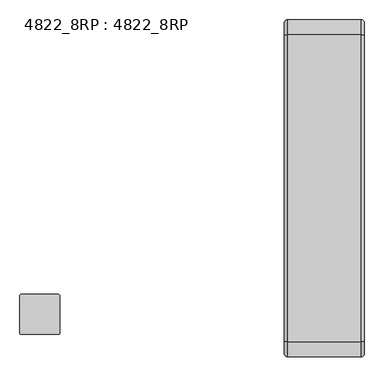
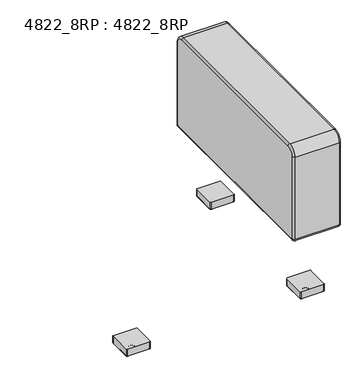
"""IFC4 building model written with IfcOpenShell, lengths in millimetres: furniture geometry, 4822_8RP : 4822_8RP."""

from ifc_helpers import new_model, si_unit, point, frame, frame_2d, origin, place, context, project, spatial, polyline, circle_curve, ellipse_curve, trimmed, segment, composite_curve, outline, extrude, source, transform, mapped, element, save
from ifc_brep_helpers import plane_surface, cylinder_surface, revolved_surface, advanced_brep


def furniture_4822_8rp_4822_8rp_7e01e892(model_context):
    return source(origin(), model_context, "Body", "SolidModel", [
        advanced_brep(
        [(457.2, -8.89, 698.8175), (457.2, -38.1, 728.0275), (457.2, -819.15, 728.0275), (457.2, -848.36, 698.8175), (457.2, -848.36, 330.4403326), (457.2, -847.8021674, 329.8825), (457.2, -9.4347305, 329.8825), (457.2, -8.89, 330.4272305), (254.0, -38.1, 728.0275), (254.0, -8.89, 698.8175), (254.0, -8.89, 330.4272305), (254.0, -9.4347305, 329.8825), (254.0, -847.8021674, 329.8825), (254.0, -848.36, 330.4403326), (254.0, -848.36, 698.8175), (254.0, -819.15, 728.0275), (262.89, -38.1, 736.9175), (262.89, -819.15, 736.9175), (448.31, -819.15, 736.9175), (448.31, -38.1, 736.9175), (262.89, -857.25, 698.8175), (448.31, -857.25, 698.8175), (262.89, -857.25, 330.4403326), (448.31, -857.25, 330.4403326), (262.89, -847.8021674, 320.9925), (448.31, -847.8021674, 320.9925), (262.89, -9.4347305, 320.9925), (448.31, -9.4347305, 320.9925), (400.05, -161.925, 320.9925), (400.05, -187.325, 320.9925), (400.05, -669.925, 320.9925), (400.05, -695.325, 320.9925), (262.89, 0.0, 330.4272305), (448.31, 0.0, 330.4272305), (262.89, 0.0, 698.8175), (448.31, 0.0, 698.8175), (400.05, -161.925, 333.6925), (400.05, -187.325, 333.6925), (400.05, -669.925, 333.6925), (400.05, -695.325, 333.6925)],
        [
            (0, 1, circle_curve(frame((457.2, -38.1, 698.8175), z_axis=(1.0, 0.0, 0.0), x_axis=(0.0, 0.0, 1.0)), 29.21)),
            (1, 2),
            (2, 3, circle_curve(frame((457.2, -819.15, 698.8175), z_axis=(1.0, 0.0, 0.0), x_axis=(0.0, -1.0, 0.0)), 29.21)),
            (3, 4),
            (4, 5, circle_curve(frame((457.2, -847.8021674, 330.4403326), z_axis=(1.0, 0.0, 0.0), x_axis=(0.0, 0.0, -1.0)), 0.5578326)),
            (5, 6),
            (6, 7, circle_curve(frame((457.2, -9.4347305, 330.4272305), z_axis=(1.0, 0.0, 0.0), x_axis=(0.0, 1.0, 0.0)), 0.5447305)),
            (7, 0),
            (8, 9, circle_curve(frame((254.0, -38.1, 698.8175), z_axis=(-1.0, 0.0, 0.0), x_axis=(0.0, 0.0, 1.0)), 29.21)),
            (9, 10),
            (10, 11, circle_curve(frame((254.0, -9.4347305, 330.4272305), z_axis=(-1.0, 0.0, 0.0), x_axis=(0.0, 1.0, 0.0)), 0.5447305)),
            (11, 12),
            (12, 13, circle_curve(frame((254.0, -847.8021674, 330.4403326), z_axis=(-1.0, 0.0, 0.0), x_axis=(0.0, 0.0, -1.0)), 0.5578326)),
            (13, 14),
            (14, 15, circle_curve(frame((254.0, -819.15, 698.8175), z_axis=(-1.0, 0.0, 0.0), x_axis=(0.0, -1.0, 0.0)), 29.21)),
            (15, 8),
            (16, 17),
            (17, 18),
            (18, 19),
            (19, 16),
            (17, 20, circle_curve(frame((262.89, -819.15, 698.8175), z_axis=(1.0, 0.0, 0.0), x_axis=(0.0, -1.0, 0.0)), 38.1)),
            (20, 21),
            (21, 18, circle_curve(frame((448.31, -819.15, 698.8175), z_axis=(-1.0, 0.0, 0.0), x_axis=(0.0, -1.0, 0.0)), 38.1)),
            (20, 22),
            (22, 23),
            (23, 21),
            (22, 24, circle_curve(frame((262.89, -847.8021674, 330.4403326), z_axis=(1.0, 0.0, 0.0), x_axis=(0.0, -1.0, 0.0)), 9.4478326)),
            (24, 25),
            (25, 23, circle_curve(frame((448.31, -847.8021674, 330.4403326), z_axis=(-1.0, 0.0, 0.0), x_axis=(0.0, -1.0, 0.0)), 9.4478326)),
            (24, 26),
            (26, 27),
            (27, 25),
            (28, 29, circle_curve(frame((400.05, -174.625, 320.9925), z_axis=(0.0, 0.0, 1.0), x_axis=(1.0, 0.0, 0.0)), 12.7)),
            (29, 28),
            (30, 31, circle_curve(frame((400.05, -682.625, 320.9925), z_axis=(0.0, 0.0, 1.0), x_axis=(1.0, 0.0, 0.0)), 12.7)),
            (31, 30),
            (26, 32, circle_curve(frame((262.89, -9.4347305, 330.4272305), z_axis=(1.0, 0.0, 0.0), x_axis=(0.0, -1.0, 0.0)), 9.4347305)),
            (32, 33),
            (33, 27, circle_curve(frame((448.31, -9.4347305, 330.4272305), z_axis=(-1.0, 0.0, 0.0), x_axis=(0.0, -1.0, 0.0)), 9.4347305)),
            (32, 34),
            (34, 35),
            (35, 33),
            (34, 16, circle_curve(frame((262.89, -38.1, 698.8175), z_axis=(1.0, 0.0, 0.0), x_axis=(0.0, -1.0, 0.0)), 38.1)),
            (19, 35, circle_curve(frame((448.31, -38.1, 698.8175), z_axis=(-1.0, 0.0, 0.0), x_axis=(0.0, -1.0, 0.0)), 38.1)),
            (34, 9, circle_curve(frame((262.89, -8.89, 698.8175), z_axis=(0.0, 0.0, 1.0), x_axis=(1.0, 0.0, 0.0)), 8.89)),
            (8, 16, circle_curve(frame((262.89, -38.1, 728.0275), z_axis=(0.0, 1.0, 0.0), x_axis=(1.0, 0.0, 0.0)), 8.89)),
            (32, 10, circle_curve(frame((262.89, -8.89, 330.4272305), z_axis=(0.0, 0.0, 1.0), x_axis=(1.0, 0.0, 0.0)), 8.89)),
            (26, 11, circle_curve(frame((262.89, -9.4347305, 329.8825), z_axis=(0.0, 1.0, 0.0), x_axis=(1.0, 0.0, 0.0)), 8.89)),
            (24, 12, circle_curve(frame((262.89, -847.8021674, 329.8825), z_axis=(0.0, 1.0, 0.0), x_axis=(1.0, 0.0, 0.0)), 8.89)),
            (22, 13, circle_curve(frame((262.89, -848.36, 330.4403326), z_axis=(0.0, 0.0, -1.0), x_axis=(1.0, 0.0, 0.0)), 8.89)),
            (20, 14, circle_curve(frame((262.89, -848.36, 698.8175), z_axis=(0.0, 0.0, -1.0), x_axis=(1.0, 0.0, 0.0)), 8.89)),
            (17, 15, circle_curve(frame((262.89, -819.15, 728.0275), z_axis=(0.0, -1.0, 0.0), x_axis=(1.0, 0.0, 0.0)), 8.89)),
            (0, 35, circle_curve(frame((448.31, -8.89, 698.8175), z_axis=(0.0, 0.0, 1.0), x_axis=(-1.0, 0.0, 0.0)), 8.89)),
            (19, 1, circle_curve(frame((448.31, -38.1, 728.0275), z_axis=(0.0, 1.0, 0.0), x_axis=(-1.0, 0.0, 0.0)), 8.89)),
            (7, 33, circle_curve(frame((448.31, -8.89, 330.4272305), z_axis=(0.0, 0.0, 1.0), x_axis=(-1.0, 0.0, 0.0)), 8.89)),
            (6, 27, circle_curve(frame((448.31, -9.4347305, 329.8825), z_axis=(0.0, 1.0, 0.0), x_axis=(-1.0, 0.0, 0.0)), 8.89)),
            (5, 25, circle_curve(frame((448.31, -847.8021674, 329.8825), z_axis=(0.0, 1.0, 0.0), x_axis=(-1.0, 0.0, 0.0)), 8.89)),
            (4, 23, circle_curve(frame((448.31, -848.36, 330.4403326), z_axis=(0.0, 0.0, -1.0), x_axis=(-1.0, 0.0, 0.0)), 8.89)),
            (3, 21, circle_curve(frame((448.31, -848.36, 698.8175), z_axis=(0.0, 0.0, -1.0), x_axis=(-1.0, 0.0, 0.0)), 8.89)),
            (2, 18, circle_curve(frame((448.31, -819.15, 728.0275), z_axis=(0.0, -1.0, 0.0), x_axis=(-1.0, 0.0, 0.0)), 8.89)),
            (36, 37),
            (37, 36, circle_curve(frame((400.05, -174.625, 333.6925), z_axis=(0.0, 0.0, -1.0), x_axis=(1.0, 0.0, 0.0)), 12.7)),
            (38, 39),
            (39, 38, circle_curve(frame((400.05, -682.625, 333.6925), z_axis=(0.0, 0.0, -1.0), x_axis=(1.0, 0.0, 0.0)), 12.7)),
            (37, 29),
            (28, 36),
            (39, 31),
            (30, 38),
        ],
        [
            plane_surface(frame((457.2, -819.15, 736.9175), z_axis=(1.0, 0.0, 0.0), x_axis=(0.0, -1.0, 0.0))),
            plane_surface(frame((254.0, -819.15, 736.9175), z_axis=(-1.0, 0.0, 0.0), x_axis=(0.0, 1.0, 0.0))),
            plane_surface(frame((457.2, -38.1, 736.9175), z_axis=(0.0, 0.0, 1.0), x_axis=(-1.0, 0.0, 0.0))),
            cylinder_surface(frame((254.0, -819.15, 698.8175), z_axis=(1.0, 0.0, 0.0), x_axis=(0.0, -1.0, 0.0)), 38.1),
            plane_surface(frame((457.2, -857.25, 698.8175), z_axis=(0.0, -1.0, 0.0), x_axis=(-1.0, 0.0, 0.0))),
            cylinder_surface(frame((254.0, -847.8021674, 330.4403326), z_axis=(1.0, 0.0, 0.0), x_axis=(0.0, -1.0, 0.0)), 9.4478326),
            plane_surface(frame((457.2, -847.8021674, 320.9925), z_axis=(0.0, 0.0, -1.0), x_axis=(-1.0, 0.0, 0.0))),
            cylinder_surface(frame((254.0, -9.4347305, 330.4272305), z_axis=(1.0, 0.0, 0.0), x_axis=(0.0, -1.0, 0.0)), 9.4347305),
            plane_surface(frame((457.2, 0.0, 330.4272305), z_axis=(0.0, 1.0, 0.0), x_axis=(-1.0, 0.0, 0.0))),
            cylinder_surface(frame((254.0, -38.1, 698.8175), z_axis=(1.0, 0.0, 0.0), x_axis=(0.0, -1.0, 0.0)), 38.1),
            revolved_surface(trimmed(ellipse_curve(frame((262.89, -38.1, 728.0275), z_axis=(0.0, -1.0, 0.0), x_axis=(1.0, 0.0, 0.0)), 8.89, 8.89), [point((262.89, -38.1, 736.9175))], [point((254.0, -38.1, 728.0275))], True, "CARTESIAN"), (254.0, -38.1, 698.8175), (-1.0, 0.0, 0.0)),
            cylinder_surface(frame((262.89, -8.89, 698.8175), z_axis=(0.0, 0.0, -1.0), x_axis=(1.0, 0.0, 0.0)), 8.89),
            revolved_surface(trimmed(ellipse_curve(frame((262.89, -8.89, 330.4272305), z_axis=(0.0, 0.0, 1.0), x_axis=(1.0, 0.0, 0.0)), 8.89, 8.89), [point((262.89, 0.0, 330.4272305))], [point((254.0, -8.89, 330.4272305))], True, "CARTESIAN"), (254.0, -9.4347305, 330.4272305), (-1.0, 0.0, 0.0)),
            cylinder_surface(frame((262.89, -9.4347305, 329.8825), z_axis=(0.0, -1.0, 0.0), x_axis=(1.0, 0.0, 0.0)), 8.89),
            revolved_surface(trimmed(ellipse_curve(frame((262.89, -847.8021674, 329.8825), z_axis=(0.0, 1.0, 0.0), x_axis=(1.0, 0.0, 0.0)), 8.89, 8.89), [point((262.89, -847.8021674, 320.9925))], [point((254.0, -847.8021674, 329.8825))], True, "CARTESIAN"), (254.0, -847.8021674, 330.4403326), (-1.0, 0.0, 0.0)),
            cylinder_surface(frame((262.89, -848.36, 330.4403326), z_axis=(0.0, 0.0, 1.0), x_axis=(1.0, 0.0, 0.0)), 8.89),
            revolved_surface(trimmed(ellipse_curve(frame((262.89, -848.36, 698.8175), z_axis=(0.0, 0.0, -1.0), x_axis=(1.0, 0.0, 0.0)), 8.89, 8.89), [point((262.89, -857.25, 698.8175))], [point((254.0, -848.36, 698.8175))], True, "CARTESIAN"), (254.0, -819.15, 698.8175), (-1.0, 0.0, 0.0)),
            cylinder_surface(frame((262.89, -819.15, 728.0275), z_axis=(0.0, 1.0, 0.0), x_axis=(1.0, 0.0, 0.0)), 8.89),
            revolved_surface(trimmed(ellipse_curve(frame((448.31, -38.1, 728.0275), z_axis=(0.0, -1.0, 0.0), x_axis=(-1.0, 0.0, 0.0)), 8.89, 8.89), [point((457.2, -38.1, 728.0275))], [point((448.31, -38.1, 736.9175))], True, "CARTESIAN"), (457.2, -38.1, 698.8175), (-1.0, 0.0, 0.0)),
            cylinder_surface(frame((448.31, -8.89, 698.8175), z_axis=(0.0, 0.0, -1.0), x_axis=(-1.0, 0.0, 0.0)), 8.89),
            revolved_surface(trimmed(ellipse_curve(frame((448.31, -8.89, 330.4272305), z_axis=(0.0, 0.0, 1.0), x_axis=(-1.0, 0.0, 0.0)), 8.89, 8.89), [point((457.2, -8.89, 330.4272305))], [point((448.31, 0.0, 330.4272305))], True, "CARTESIAN"), (457.2, -9.4347305, 330.4272305), (-1.0, 0.0, 0.0)),
            cylinder_surface(frame((448.31, -9.4347305, 329.8825), z_axis=(0.0, -1.0, 0.0), x_axis=(-1.0, 0.0, 0.0)), 8.89),
            revolved_surface(trimmed(ellipse_curve(frame((448.31, -847.8021674, 329.8825), z_axis=(0.0, 1.0, 0.0), x_axis=(-1.0, 0.0, 0.0)), 8.89, 8.89), [point((457.2, -847.8021674, 329.8825))], [point((448.31, -847.8021674, 320.9925))], True, "CARTESIAN"), (457.2, -847.8021674, 330.4403326), (-1.0, 0.0, 0.0)),
            cylinder_surface(frame((448.31, -848.36, 330.4403326), z_axis=(0.0, 0.0, 1.0), x_axis=(-1.0, 0.0, 0.0)), 8.89),
            revolved_surface(trimmed(ellipse_curve(frame((448.31, -848.36, 698.8175), z_axis=(0.0, 0.0, -1.0), x_axis=(-1.0, 0.0, 0.0)), 8.89, 8.89), [point((457.2, -848.36, 698.8175))], [point((448.31, -857.25, 698.8175))], True, "CARTESIAN"), (457.2, -819.15, 698.8175), (-1.0, 0.0, 0.0)),
            cylinder_surface(frame((448.31, -819.15, 728.0275), z_axis=(0.0, 1.0, 0.0), x_axis=(-1.0, 0.0, 0.0)), 8.89),
            plane_surface(frame((412.75, -174.625, 333.6925), z_axis=(0.0, 0.0, -1.0), x_axis=(0.0, 1.0, 0.0))),
            revolved_surface(polyline([(412.75, -174.625, 333.6925), (412.75, -174.625, 320.9925)]), (400.05, -174.625, 320.9925), (0.0, 0.0, 1.0)),
            plane_surface(frame((400.05, -187.325, 333.6925), z_axis=(-1.0, 0.0, 0.0), x_axis=(0.0, 0.0, -1.0))),
            revolved_surface(polyline([(412.75, -682.625, 333.6925), (412.75, -682.625, 320.9925)]), (400.05, -682.625, 9.8425), (0.0, 0.0, 1.0)),
            plane_surface(frame((400.05, -695.325, 333.6925), z_axis=(-1.0, 0.0, 0.0), x_axis=(0.0, 0.0, -1.0))),
        ],
        [
            (0, [[1, 2, 3, 4, 5, 6, 7, 8]]),
            (1, [[9, 10, 11, 12, 13, 14, 15, 16]]),
            (2, [[17, 18, 19, 20]]),
            (3, [[21, 22, 23, -18]]),
            (4, [[24, 25, 26, -22]]),
            (5, [[27, 28, 29, -25]]),
            (6, [[30, 31, 32, -28], [33, 34], [35, 36]]),
            (7, [[37, 38, 39, -31]]),
            (8, [[40, 41, 42, -38]]),
            (9, [[43, -20, 44, -41]]),
            (10, [[45, -9, 46, -43]]),
            (11, [[-45, -40, 47, -10]]),
            (12, [[-47, -37, 48, -11]]),
            (13, [[-48, -30, 49, -12]]),
            (14, [[-49, -27, 50, -13]]),
            (15, [[-50, -24, 51, -14]]),
            (16, [[-51, -21, 52, -15]]),
            (17, [[-46, -16, -52, -17]]),
            (18, [[53, -44, 54, -1]]),
            (19, [[-53, -8, 55, -42]]),
            (20, [[-55, -7, 56, -39]]),
            (21, [[-56, -6, 57, -32]]),
            (22, [[-57, -5, 58, -29]]),
            (23, [[-58, -4, 59, -26]]),
            (24, [[-59, -3, 60, -23]]),
            (25, [[-54, -19, -60, -2]]),
            (26, [[61, 62]]),
            (26, [[63, 64]]),
            (27, [[-62, 65, -33, 66]]),
            (28, [[-61, -66, -34, -65]]),
            (29, [[-64, 67, -35, 68]]),
            (30, [[-63, -68, -36, -67]]),
        ],
    ),
        advanced_brep(
        [(-320.675, -698.5, 41.5925), (-415.925, -698.5, 41.5925), (-419.1, -701.675, 41.5925), (-419.1, -796.925, 41.5925), (-415.925, -800.1, 41.5925), (-320.675, -800.1, 41.5925), (-317.5, -796.925, 41.5925), (-317.5, -701.675, 41.5925), (-417.83, -701.675, 11.1125), (-415.925, -699.77, 11.1125), (-320.675, -699.77, 11.1125), (-318.77, -701.675, 11.1125), (-318.77, -796.925, 11.1125), (-320.675, -798.83, 11.1125), (-415.925, -798.83, 11.1125), (-417.83, -796.925, 11.1125), (-320.675, -698.5, 11.1125), (-415.925, -698.5, 11.1125), (-419.1, -701.675, 11.1125), (-419.1, -796.925, 11.1125), (-415.925, -800.1, 11.1125), (-320.675, -800.1, 11.1125), (-317.5, -796.925, 11.1125), (-317.5, -701.675, 11.1125), (-415.925, -699.77, 9.8425), (-417.83, -701.675, 9.8425), (-320.675, -699.77, 9.8425), (-318.77, -701.675, 9.8425), (-318.77, -796.925, 9.8425), (-320.675, -798.83, 9.8425), (-415.925, -798.83, 9.8425), (-417.83, -796.925, 9.8425)],
        [
            (0, 1),
            (1, 2, circle_curve(frame((-415.925, -701.675, 41.5925), z_axis=(0.0, 0.0, 1.0), x_axis=(1.0, 0.0, 0.0)), 3.175)),
            (2, 3),
            (3, 4, circle_curve(frame((-415.925, -796.925, 41.5925), z_axis=(0.0, 0.0, 1.0), x_axis=(1.0, 0.0, 0.0)), 3.175)),
            (4, 5),
            (5, 6, circle_curve(frame((-320.675, -796.925, 41.5925), z_axis=(0.0, 0.0, 1.0), x_axis=(1.0, 0.0, 0.0)), 3.175)),
            (6, 7),
            (7, 0, circle_curve(frame((-320.675, -701.675, 41.5925), z_axis=(0.0, 0.0, 1.0), x_axis=(1.0, 0.0, 0.0)), 3.175)),
            (8, 9, circle_curve(frame((-415.925, -701.675, 11.1125), z_axis=(0.0, 0.0, -1.0), x_axis=(-1.0, 0.0, 0.0)), 1.905)),
            (9, 10),
            (10, 11, circle_curve(frame((-320.675, -701.675, 11.1125), z_axis=(0.0, 0.0, -1.0), x_axis=(0.0, 1.0, 0.0)), 1.905)),
            (11, 12),
            (12, 13, circle_curve(frame((-320.675, -796.925, 11.1125), z_axis=(0.0, 0.0, -1.0), x_axis=(1.0, 0.0, 0.0)), 1.905)),
            (13, 14),
            (14, 15, circle_curve(frame((-415.925, -796.925, 11.1125), z_axis=(0.0, 0.0, -1.0), x_axis=(0.0, -1.0, 0.0)), 1.905)),
            (15, 8),
            (0, 16),
            (16, 17),
            (17, 1),
            (17, 18, circle_curve(frame((-415.925, -701.675, 11.1125), z_axis=(0.0, 0.0, 1.0), x_axis=(1.0, 0.0, 0.0)), 3.175)),
            (18, 2),
            (18, 19),
            (19, 3),
            (19, 20, circle_curve(frame((-415.925, -796.925, 11.1125), z_axis=(0.0, 0.0, 1.0), x_axis=(1.0, 0.0, 0.0)), 3.175)),
            (20, 4),
            (20, 21),
            (21, 5),
            (21, 22, circle_curve(frame((-320.675, -796.925, 11.1125), z_axis=(0.0, 0.0, 1.0), x_axis=(1.0, 0.0, 0.0)), 3.175)),
            (22, 6),
            (22, 23),
            (23, 7),
            (23, 16, circle_curve(frame((-320.675, -701.675, 11.1125), z_axis=(0.0, 0.0, 1.0), x_axis=(1.0, 0.0, 0.0)), 3.175)),
            (24, 25, circle_curve(frame((-415.925, -701.675, 9.8425), z_axis=(0.0, 0.0, 1.0), x_axis=(-1.0, 0.0, 0.0)), 1.905)),
            (25, 18, circle_curve(frame((-417.83, -701.675, 11.1125), z_axis=(0.0, 1.0, 0.0), x_axis=(1.0, 0.0, 0.0)), 1.27)),
            (17, 24, circle_curve(frame((-415.925, -699.77, 11.1125), z_axis=(-1.0, 0.0, 0.0), x_axis=(0.0, -1.0, 0.0)), 1.27)),
            (16, 26, circle_curve(frame((-320.675, -699.77, 11.1125), z_axis=(-1.0, 0.0, 0.0), x_axis=(0.0, -1.0, 0.0)), 1.27)),
            (26, 24),
            (23, 27, circle_curve(frame((-318.77, -701.675, 11.1125), z_axis=(0.0, 1.0, 0.0), x_axis=(-1.0, 0.0, 0.0)), 1.27)),
            (27, 26, circle_curve(frame((-320.675, -701.675, 9.8425), z_axis=(0.0, 0.0, 1.0), x_axis=(0.0, 1.0, 0.0)), 1.905)),
            (22, 28, circle_curve(frame((-318.77, -796.925, 11.1125), z_axis=(0.0, 1.0, 0.0), x_axis=(-1.0, 0.0, 0.0)), 1.27)),
            (28, 27),
            (21, 29, circle_curve(frame((-320.675, -798.83, 11.1125), z_axis=(1.0, 0.0, 0.0), x_axis=(0.0, 1.0, 0.0)), 1.27)),
            (29, 28, circle_curve(frame((-320.675, -796.925, 9.8425), z_axis=(0.0, 0.0, 1.0), x_axis=(1.0, 0.0, 0.0)), 1.905)),
            (20, 30, circle_curve(frame((-415.925, -798.83, 11.1125), z_axis=(1.0, 0.0, 0.0), x_axis=(0.0, 1.0, 0.0)), 1.27)),
            (30, 29),
            (19, 31, circle_curve(frame((-417.83, -796.925, 11.1125), z_axis=(0.0, -1.0, 0.0), x_axis=(1.0, 0.0, 0.0)), 1.27)),
            (31, 30, circle_curve(frame((-415.925, -796.925, 9.8425), z_axis=(0.0, 0.0, 1.0), x_axis=(0.0, -1.0, 0.0)), 1.905)),
            (25, 31),
            (24, 9),
            (8, 25),
            (26, 10),
            (27, 11),
            (28, 12),
            (29, 13),
            (30, 14),
            (31, 15),
        ],
        [
            plane_surface(frame((-415.925, -698.5, 41.5925), z_axis=(0.0, 0.0, 1.0), x_axis=(-1.0, 0.0, 0.0))),
            plane_surface(frame((-415.925, -698.5, 11.1125), z_axis=(0.0, 0.0, -1.0), x_axis=(1.0, 0.0, 0.0))),
            plane_surface(frame((-320.675, -698.5, 41.5925), z_axis=(0.0, 1.0, 0.0), x_axis=(0.0, 0.0, -1.0))),
            cylinder_surface(frame((-415.925, -701.675, 11.1125), z_axis=(0.0, 0.0, 1.0), x_axis=(1.0, 0.0, 0.0)), 3.175),
            plane_surface(frame((-419.1, -701.675, 41.5925), z_axis=(-1.0, 0.0, 0.0), x_axis=(0.0, 0.0, -1.0))),
            cylinder_surface(frame((-415.925, -796.925, 11.1125), z_axis=(0.0, 0.0, 1.0), x_axis=(1.0, 0.0, 0.0)), 3.175),
            plane_surface(frame((-415.925, -800.1, 41.5925), z_axis=(0.0, -1.0, 0.0), x_axis=(0.0, 0.0, -1.0))),
            cylinder_surface(frame((-320.675, -796.925, 11.1125), z_axis=(0.0, 0.0, 1.0), x_axis=(1.0, 0.0, 0.0)), 3.175),
            plane_surface(frame((-317.5, -796.925, 41.5925), z_axis=(1.0, 0.0, 0.0), x_axis=(0.0, 0.0, -1.0))),
            cylinder_surface(frame((-320.675, -701.675, 11.1125), z_axis=(0.0, 0.0, 1.0), x_axis=(1.0, 0.0, 0.0)), 3.175),
            revolved_surface(trimmed(ellipse_curve(frame((-417.83, -701.675, 11.1125), z_axis=(0.0, -1.0, 0.0), x_axis=(1.0, 0.0, 0.0)), 1.27, 1.27), [point((-419.1, -701.675, 11.1125))], [point((-417.83, -701.675, 9.8425))], True, "CARTESIAN"), (-415.925, -701.675, 11.1125), (0.0, 0.0, -1.0)),
            cylinder_surface(frame((-415.925, -699.77, 11.1125), z_axis=(-1.0, 0.0, 0.0), x_axis=(0.0, -1.0, 0.0)), 1.27),
            revolved_surface(trimmed(ellipse_curve(frame((-320.675, -699.77, 11.1125), z_axis=(-1.0, 0.0, 0.0), x_axis=(0.0, -1.0, 0.0)), 1.27, 1.27), [point((-320.675, -698.5, 11.1125))], [point((-320.675, -699.77, 9.8425))], True, "CARTESIAN"), (-320.675, -701.675, 11.1125), (0.0, 0.0, -1.0)),
            cylinder_surface(frame((-318.77, -701.675, 11.1125), z_axis=(0.0, 1.0, 0.0), x_axis=(-1.0, 0.0, 0.0)), 1.27),
            revolved_surface(trimmed(ellipse_curve(frame((-318.77, -796.925, 11.1125), z_axis=(0.0, 1.0, 0.0), x_axis=(-1.0, 0.0, 0.0)), 1.27, 1.27), [point((-317.5, -796.925, 11.1125))], [point((-318.77, -796.925, 9.8425))], True, "CARTESIAN"), (-320.675, -796.925, 11.1125), (0.0, 0.0, -1.0)),
            cylinder_surface(frame((-320.675, -798.83, 11.1125), z_axis=(1.0, 0.0, 0.0), x_axis=(0.0, 1.0, 0.0)), 1.27),
            revolved_surface(trimmed(ellipse_curve(frame((-415.925, -798.83, 11.1125), z_axis=(1.0, 0.0, 0.0), x_axis=(0.0, 1.0, 0.0)), 1.27, 1.27), [point((-415.925, -800.1, 11.1125))], [point((-415.925, -798.83, 9.8425))], True, "CARTESIAN"), (-415.925, -796.925, 11.1125), (0.0, 0.0, -1.0)),
            cylinder_surface(frame((-417.83, -796.925, 11.1125), z_axis=(0.0, -1.0, 0.0), x_axis=(1.0, 0.0, 0.0)), 1.27),
            revolved_surface(polyline([(-417.83, -701.675, 9.8425), (-417.83, -701.675, 11.1125)]), (-415.925, -701.675, 11.1125), (0.0, 0.0, -1.0)),
            plane_surface(frame((-415.925, -699.77, 9.8425), z_axis=(0.0, -1.0, 0.0), x_axis=(1.0, 0.0, 0.0))),
            revolved_surface(polyline([(-320.675, -699.77, 9.8425), (-320.675, -699.77, 11.1125)]), (-320.675, -701.675, 11.1125), (0.0, 0.0, -1.0)),
            plane_surface(frame((-318.77, -701.675, 9.8425), z_axis=(-1.0, 0.0, 0.0), x_axis=(0.0, -1.0, 0.0))),
            revolved_surface(polyline([(-318.77000000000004, -796.925, 9.8425), (-318.77000000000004, -796.925, 11.1125)]), (-320.675, -796.925, 11.1125), (0.0, 0.0, -1.0)),
            plane_surface(frame((-320.675, -798.83, 9.8425), z_axis=(0.0, 1.0, 0.0), x_axis=(-1.0, 0.0, 0.0))),
            revolved_surface(polyline([(-415.925, -798.8299999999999, 9.8425), (-415.925, -798.8299999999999, 11.1125)]), (-415.925, -796.925, 11.1125), (0.0, 0.0, -1.0)),
            plane_surface(frame((-417.83, -796.925, 9.8425), z_axis=(1.0, 0.0, 0.0), x_axis=(0.0, 1.0, 0.0))),
        ],
        [
            (0, [[1, 2, 3, 4, 5, 6, 7, 8]]),
            (1, [[9, 10, 11, 12, 13, 14, 15, 16]]),
            (2, [[-1, 17, 18, 19]]),
            (3, [[-2, -19, 20, 21]]),
            (4, [[-3, -21, 22, 23]]),
            (5, [[-4, -23, 24, 25]]),
            (6, [[-5, -25, 26, 27]]),
            (7, [[-6, -27, 28, 29]]),
            (8, [[-7, -29, 30, 31]]),
            (9, [[-8, -31, 32, -17]]),
            (10, [[33, 34, -20, 35]]),
            (11, [[-35, -18, 36, 37]]),
            (12, [[-36, -32, 38, 39]]),
            (13, [[-38, -30, 40, 41]]),
            (14, [[-40, -28, 42, 43]]),
            (15, [[-42, -26, 44, 45]]),
            (16, [[-44, -24, 46, 47]]),
            (17, [[-34, 48, -46, -22]]),
            (18, [[-33, 49, -9, 50]]),
            (19, [[-37, 51, -10, -49]]),
            (20, [[-39, 52, -11, -51]]),
            (21, [[-41, 53, -12, -52]]),
            (22, [[-43, 54, -13, -53]]),
            (23, [[-45, 55, -14, -54]]),
            (24, [[-47, 56, -15, -55]]),
            (25, [[-48, -50, -16, -56]]),
        ],
    ),
        extrude(outline(composite_curve([segment(trimmed(circle_curve(frame_2d((-415.925, -796.925)), 1.905), [point((-415.925, -798.83))], [point((-417.83, -796.925))], False, "CARTESIAN"), True, "CONTINUOUS"), segment(polyline([(-417.83, -796.925), (-417.83, -701.675)]), True, "CONTINUOUS"), segment(trimmed(circle_curve(frame_2d((-415.925, -701.675)), 1.905), [point((-417.83, -701.675))], [point((-415.925, -699.77))], False, "CARTESIAN"), True, "CONTINUOUS"), segment(polyline([(-415.925, -699.77), (-320.675, -699.77)]), True, "CONTINUOUS"), segment(trimmed(circle_curve(frame_2d((-320.675, -701.675)), 1.905), [point((-320.675, -699.77))], [point((-318.77, -701.675))], False, "CARTESIAN"), True, "CONTINUOUS"), segment(polyline([(-318.77, -701.675), (-318.77, -796.925)]), True, "CONTINUOUS"), segment(trimmed(circle_curve(frame_2d((-320.675, -796.925)), 1.905), [point((-318.77, -796.925))], [point((-320.675, -798.83))], False, "CARTESIAN"), True, "CONTINUOUS"), segment(polyline([(-320.675, -798.83), (-415.925, -798.83)]), True, "CONTINUOUS")], self_intersect=False)), frame((0.0, 0.0, 9.8425), z_axis=(0.0, 0.0, 1.0), x_axis=(1.0, 0.0, 0.0)), (0.0, 0.0, 1.0), 1.27),
        advanced_brep(
        [(-378.4521334, -749.3, 0.0), (-358.1478666, -749.3, 0.0), (-368.3, -749.3, 0.0), (-378.7775, -749.3, 5.08), (-357.8225, -749.3, 5.08), (-378.7775, -749.3, 9.0481974), (-357.8225, -749.3, 9.0481974), (-377.9831974, -749.3, 9.8425), (-358.6168026, -749.3, 9.8425), (-368.3, -749.3, 9.8425)],
        [
            (0, 1, circle_curve(frame((-368.3, -749.3, 0.0), z_axis=(0.0, 0.0, -1.0), x_axis=(1.0, 0.0, 0.0)), 10.1521334)),
            (1, 2),
            (2, 0),
            (1, 0, circle_curve(frame((-368.3, -749.3, 0.0), z_axis=(0.0, 0.0, -1.0), x_axis=(1.0, 0.0, 0.0)), 10.1521334)),
            (3, 4, circle_curve(frame((-368.3, -749.3, 5.08), z_axis=(0.0, 0.0, -1.0), x_axis=(1.0, 0.0, 0.0)), 10.4775)),
            (4, 1, circle_curve(frame((-358.1478666, -749.3, 2.5504196), z_axis=(0.0, 1.0, 0.0), x_axis=(1.0, 0.0, 0.0)), 2.5504196)),
            (0, 3, circle_curve(frame((-378.4521334, -749.3, 2.5504196), z_axis=(0.0, 1.0, 0.0), x_axis=(-1.0, 0.0, 0.0)), 2.5504196)),
            (4, 3, circle_curve(frame((-368.3, -749.3, 5.08), z_axis=(0.0, 0.0, -1.0), x_axis=(1.0, 0.0, 0.0)), 10.4775)),
            (5, 6, circle_curve(frame((-368.3, -749.3, 9.0481974), z_axis=(0.0, 0.0, -1.0), x_axis=(1.0, 0.0, 0.0)), 10.4775)),
            (6, 4),
            (3, 5),
            (6, 5, circle_curve(frame((-368.3, -749.3, 9.0481974), z_axis=(0.0, 0.0, -1.0), x_axis=(1.0, 0.0, 0.0)), 10.4775)),
            (7, 8, circle_curve(frame((-368.3, -749.3, 9.8425), z_axis=(0.0, 0.0, -1.0), x_axis=(1.0, 0.0, 0.0)), 9.6831974)),
            (8, 6, circle_curve(frame((-358.6168026, -749.3, 9.0481974), z_axis=(0.0, 1.0, 0.0), x_axis=(1.0, 0.0, 0.0)), 0.7943026)),
            (5, 7, circle_curve(frame((-377.9831974, -749.3, 9.0481974), z_axis=(0.0, 1.0, 0.0), x_axis=(-1.0, 0.0, 0.0)), 0.7943026)),
            (8, 7, circle_curve(frame((-368.3, -749.3, 9.8425), z_axis=(0.0, 0.0, -1.0), x_axis=(1.0, 0.0, 0.0)), 9.6831974)),
            (9, 8),
            (7, 9),
        ],
        [
            plane_surface(frame((-368.3, -749.3, 0.0), z_axis=(0.0, 0.0, -1.0), x_axis=(1.0, 0.0, 0.0))),
            revolved_surface(trimmed(ellipse_curve(frame((-358.1478666, -749.3, 2.5504196), z_axis=(0.0, -1.0, 0.0), x_axis=(1.0, 0.0, 0.0)), 2.5504196, 2.5504196), [point((-358.1478666, -749.3, 0.0))], [point((-357.8225, -749.3, 5.08))], True, "CARTESIAN"), (-368.3, -749.3, 9.8425), (0.0, 0.0, 1.0)),
            cylinder_surface(frame((-368.3, -749.3, 9.8425), z_axis=(0.0, 0.0, 1.0), x_axis=(1.0, 0.0, 0.0)), 10.4775),
            revolved_surface(trimmed(ellipse_curve(frame((-358.6168026, -749.3, 9.0481974), z_axis=(0.0, -1.0, 0.0), x_axis=(1.0, 0.0, 0.0)), 0.7943026, 0.7943026), [point((-357.8225, -749.3, 9.0481974))], [point((-358.6168026, -749.3, 9.8425))], True, "CARTESIAN"), (-368.3, -749.3, 9.8425), (0.0, 0.0, 1.0)),
            plane_surface(frame((-368.3, -749.3, 9.8425), z_axis=(0.0, 0.0, 1.0), x_axis=(1.0, 0.0, 0.0))),
        ],
        [
            (0, [[1, 2, 3]]),
            (0, [[4, -3, -2]]),
            (1, [[5, 6, -1, 7]]),
            (1, [[8, -7, -4, -6]]),
            (2, [[9, 10, -5, 11]]),
            (2, [[12, -11, -8, -10]]),
            (3, [[13, 14, -9, 15]]),
            (3, [[16, -15, -12, -14]]),
            (4, [[17, -13, 18]]),
            (4, [[-18, -16, -17]]),
        ],
    ),
        advanced_brep(
        [(415.925, -698.5, 41.5925), (320.675, -698.5, 41.5925), (317.5, -701.675, 41.5925), (317.5, -796.925, 41.5925), (320.675, -800.1, 41.5925), (415.925, -800.1, 41.5925), (419.1, -796.925, 41.5925), (419.1, -701.675, 41.5925), (318.77, -701.675, 11.1125), (320.675, -699.77, 11.1125), (415.925, -699.77, 11.1125), (417.83, -701.675, 11.1125), (417.83, -796.925, 11.1125), (415.925, -798.83, 11.1125), (320.675, -798.83, 11.1125), (318.77, -796.925, 11.1125), (415.925, -698.5, 11.1125), (320.675, -698.5, 11.1125), (317.5, -701.675, 11.1125), (317.5, -796.925, 11.1125), (320.675, -800.1, 11.1125), (415.925, -800.1, 11.1125), (419.1, -796.925, 11.1125), (419.1, -701.675, 11.1125), (320.675, -699.77, 9.8425), (318.77, -701.675, 9.8425), (415.925, -699.77, 9.8425), (417.83, -701.675, 9.8425), (417.83, -796.925, 9.8425), (415.925, -798.83, 9.8425), (320.675, -798.83, 9.8425), (318.77, -796.925, 9.8425)],
        [
            (0, 1),
            (1, 2, circle_curve(frame((320.675, -701.675, 41.5925), z_axis=(0.0, 0.0, 1.0), x_axis=(1.0, 0.0, 0.0)), 3.175)),
            (2, 3),
            (3, 4, circle_curve(frame((320.675, -796.925, 41.5925), z_axis=(0.0, 0.0, 1.0), x_axis=(1.0, 0.0, 0.0)), 3.175)),
            (4, 5),
            (5, 6, circle_curve(frame((415.925, -796.925, 41.5925), z_axis=(0.0, 0.0, 1.0), x_axis=(1.0, 0.0, 0.0)), 3.175)),
            (6, 7),
            (7, 0, circle_curve(frame((415.925, -701.675, 41.5925), z_axis=(0.0, 0.0, 1.0), x_axis=(1.0, 0.0, 0.0)), 3.175)),
            (8, 9, circle_curve(frame((320.675, -701.675, 11.1125), z_axis=(0.0, 0.0, -1.0), x_axis=(-1.0, 0.0, 0.0)), 1.905)),
            (9, 10),
            (10, 11, circle_curve(frame((415.925, -701.675, 11.1125), z_axis=(0.0, 0.0, -1.0), x_axis=(0.0, 1.0, 0.0)), 1.905)),
            (11, 12),
            (12, 13, circle_curve(frame((415.925, -796.925, 11.1125), z_axis=(0.0, 0.0, -1.0), x_axis=(1.0, 0.0, 0.0)), 1.905)),
            (13, 14),
            (14, 15, circle_curve(frame((320.675, -796.925, 11.1125), z_axis=(0.0, 0.0, -1.0), x_axis=(0.0, -1.0, 0.0)), 1.905)),
            (15, 8),
            (0, 16),
            (16, 17),
            (17, 1),
            (17, 18, circle_curve(frame((320.675, -701.675, 11.1125), z_axis=(0.0, 0.0, 1.0), x_axis=(1.0, 0.0, 0.0)), 3.175)),
            (18, 2),
            (18, 19),
            (19, 3),
            (19, 20, circle_curve(frame((320.675, -796.925, 11.1125), z_axis=(0.0, 0.0, 1.0), x_axis=(1.0, 0.0, 0.0)), 3.175)),
            (20, 4),
            (20, 21),
            (21, 5),
            (21, 22, circle_curve(frame((415.925, -796.925, 11.1125), z_axis=(0.0, 0.0, 1.0), x_axis=(1.0, 0.0, 0.0)), 3.175)),
            (22, 6),
            (22, 23),
            (23, 7),
            (23, 16, circle_curve(frame((415.925, -701.675, 11.1125), z_axis=(0.0, 0.0, 1.0), x_axis=(1.0, 0.0, 0.0)), 3.175)),
            (24, 25, circle_curve(frame((320.675, -701.675, 9.8425), z_axis=(0.0, 0.0, 1.0), x_axis=(-1.0, 0.0, 0.0)), 1.905)),
            (25, 18, circle_curve(frame((318.77, -701.675, 11.1125), z_axis=(0.0, 1.0, 0.0), x_axis=(1.0, 0.0, 0.0)), 1.27)),
            (17, 24, circle_curve(frame((320.675, -699.77, 11.1125), z_axis=(-1.0, 0.0, 0.0), x_axis=(0.0, -1.0, 0.0)), 1.27)),
            (16, 26, circle_curve(frame((415.925, -699.77, 11.1125), z_axis=(-1.0, 0.0, 0.0), x_axis=(0.0, -1.0, 0.0)), 1.27)),
            (26, 24),
            (23, 27, circle_curve(frame((417.83, -701.675, 11.1125), z_axis=(0.0, 1.0, 0.0), x_axis=(-1.0, 0.0, 0.0)), 1.27)),
            (27, 26, circle_curve(frame((415.925, -701.675, 9.8425), z_axis=(0.0, 0.0, 1.0), x_axis=(0.0, 1.0, 0.0)), 1.905)),
            (22, 28, circle_curve(frame((417.83, -796.925, 11.1125), z_axis=(0.0, 1.0, 0.0), x_axis=(-1.0, 0.0, 0.0)), 1.27)),
            (28, 27),
            (21, 29, circle_curve(frame((415.925, -798.83, 11.1125), z_axis=(1.0, 0.0, 0.0), x_axis=(0.0, 1.0, 0.0)), 1.27)),
            (29, 28, circle_curve(frame((415.925, -796.925, 9.8425), z_axis=(0.0, 0.0, 1.0), x_axis=(1.0, 0.0, 0.0)), 1.905)),
            (20, 30, circle_curve(frame((320.675, -798.83, 11.1125), z_axis=(1.0, 0.0, 0.0), x_axis=(0.0, 1.0, 0.0)), 1.27)),
            (30, 29),
            (19, 31, circle_curve(frame((318.77, -796.925, 11.1125), z_axis=(0.0, -1.0, 0.0), x_axis=(1.0, 0.0, 0.0)), 1.27)),
            (31, 30, circle_curve(frame((320.675, -796.925, 9.8425), z_axis=(0.0, 0.0, 1.0), x_axis=(0.0, -1.0, 0.0)), 1.905)),
            (25, 31),
            (24, 9),
            (8, 25),
            (26, 10),
            (27, 11),
            (28, 12),
            (29, 13),
            (30, 14),
            (31, 15),
        ],
        [
            plane_surface(frame((320.675, -698.5, 41.5925), z_axis=(0.0, 0.0, 1.0), x_axis=(-1.0, 0.0, 0.0))),
            plane_surface(frame((320.675, -698.5, 11.1125), z_axis=(0.0, 0.0, -1.0), x_axis=(1.0, 0.0, 0.0))),
            plane_surface(frame((415.925, -698.5, 41.5925), z_axis=(0.0, 1.0, 0.0), x_axis=(0.0, 0.0, -1.0))),
            cylinder_surface(frame((320.675, -701.675, 11.1125), z_axis=(0.0, 0.0, 1.0), x_axis=(1.0, 0.0, 0.0)), 3.175),
            plane_surface(frame((317.5, -701.675, 41.5925), z_axis=(-1.0, 0.0, 0.0), x_axis=(0.0, 0.0, -1.0))),
            cylinder_surface(frame((320.675, -796.925, 11.1125), z_axis=(0.0, 0.0, 1.0), x_axis=(1.0, 0.0, 0.0)), 3.175),
            plane_surface(frame((320.675, -800.1, 41.5925), z_axis=(0.0, -1.0, 0.0), x_axis=(0.0, 0.0, -1.0))),
            cylinder_surface(frame((415.925, -796.925, 11.1125), z_axis=(0.0, 0.0, 1.0), x_axis=(1.0, 0.0, 0.0)), 3.175),
            plane_surface(frame((419.1, -796.925, 41.5925), z_axis=(1.0, 0.0, 0.0), x_axis=(0.0, 0.0, -1.0))),
            cylinder_surface(frame((415.925, -701.675, 11.1125), z_axis=(0.0, 0.0, 1.0), x_axis=(1.0, 0.0, 0.0)), 3.175),
            revolved_surface(trimmed(ellipse_curve(frame((318.77, -701.675, 11.1125), z_axis=(0.0, -1.0, 0.0), x_axis=(1.0, 0.0, 0.0)), 1.27, 1.27), [point((317.5, -701.675, 11.1125))], [point((318.77, -701.675, 9.8425))], True, "CARTESIAN"), (320.675, -701.675, 11.1125), (0.0, 0.0, -1.0)),
            cylinder_surface(frame((320.675, -699.77, 11.1125), z_axis=(-1.0, 0.0, 0.0), x_axis=(0.0, -1.0, 0.0)), 1.27),
            revolved_surface(trimmed(ellipse_curve(frame((415.925, -699.77, 11.1125), z_axis=(-1.0, 0.0, 0.0), x_axis=(0.0, -1.0, 0.0)), 1.27, 1.27), [point((415.925, -698.5, 11.1125))], [point((415.925, -699.77, 9.8425))], True, "CARTESIAN"), (415.925, -701.675, 11.1125), (0.0, 0.0, -1.0)),
            cylinder_surface(frame((417.83, -701.675, 11.1125), z_axis=(0.0, 1.0, 0.0), x_axis=(-1.0, 0.0, 0.0)), 1.27),
            revolved_surface(trimmed(ellipse_curve(frame((417.83, -796.925, 11.1125), z_axis=(0.0, 1.0, 0.0), x_axis=(-1.0, 0.0, 0.0)), 1.27, 1.27), [point((419.1, -796.925, 11.1125))], [point((417.83, -796.925, 9.8425))], True, "CARTESIAN"), (415.925, -796.925, 11.1125), (0.0, 0.0, -1.0)),
            cylinder_surface(frame((415.925, -798.83, 11.1125), z_axis=(1.0, 0.0, 0.0), x_axis=(0.0, 1.0, 0.0)), 1.27),
            revolved_surface(trimmed(ellipse_curve(frame((320.675, -798.83, 11.1125), z_axis=(1.0, 0.0, 0.0), x_axis=(0.0, 1.0, 0.0)), 1.27, 1.27), [point((320.675, -800.1, 11.1125))], [point((320.675, -798.83, 9.8425))], True, "CARTESIAN"), (320.675, -796.925, 11.1125), (0.0, 0.0, -1.0)),
            cylinder_surface(frame((318.77, -796.925, 11.1125), z_axis=(0.0, -1.0, 0.0), x_axis=(1.0, 0.0, 0.0)), 1.27),
            revolved_surface(polyline([(318.77000000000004, -701.675, 9.8425), (318.77000000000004, -701.675, 11.1125)]), (320.675, -701.675, 11.1125), (0.0, 0.0, -1.0)),
            plane_surface(frame((320.675, -699.77, 9.8425), z_axis=(0.0, -1.0, 0.0), x_axis=(1.0, 0.0, 0.0))),
            revolved_surface(polyline([(415.925, -699.77, 9.8425), (415.925, -699.77, 11.1125)]), (415.925, -701.675, 11.1125), (0.0, 0.0, -1.0)),
            plane_surface(frame((417.83, -701.675, 9.8425), z_axis=(-1.0, 0.0, 0.0), x_axis=(0.0, -1.0, 0.0))),
            revolved_surface(polyline([(417.83, -796.925, 9.8425), (417.83, -796.925, 11.1125)]), (415.925, -796.925, 11.1125), (0.0, 0.0, -1.0)),
            plane_surface(frame((415.925, -798.83, 9.8425), z_axis=(0.0, 1.0, 0.0), x_axis=(-1.0, 0.0, 0.0))),
            revolved_surface(polyline([(320.675, -798.8299999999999, 9.8425), (320.675, -798.8299999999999, 11.1125)]), (320.675, -796.925, 11.1125), (0.0, 0.0, -1.0)),
            plane_surface(frame((318.77, -796.925, 9.8425), z_axis=(1.0, 0.0, 0.0), x_axis=(0.0, 1.0, 0.0))),
        ],
        [
            (0, [[1, 2, 3, 4, 5, 6, 7, 8]]),
            (1, [[9, 10, 11, 12, 13, 14, 15, 16]]),
            (2, [[-1, 17, 18, 19]]),
            (3, [[-2, -19, 20, 21]]),
            (4, [[-3, -21, 22, 23]]),
            (5, [[-4, -23, 24, 25]]),
            (6, [[-5, -25, 26, 27]]),
            (7, [[-6, -27, 28, 29]]),
            (8, [[-7, -29, 30, 31]]),
            (9, [[-8, -31, 32, -17]]),
            (10, [[33, 34, -20, 35]]),
            (11, [[-35, -18, 36, 37]]),
            (12, [[-36, -32, 38, 39]]),
            (13, [[-38, -30, 40, 41]]),
            (14, [[-40, -28, 42, 43]]),
            (15, [[-42, -26, 44, 45]]),
            (16, [[-44, -24, 46, 47]]),
            (17, [[-34, 48, -46, -22]]),
            (18, [[-33, 49, -9, 50]]),
            (19, [[-37, 51, -10, -49]]),
            (20, [[-39, 52, -11, -51]]),
            (21, [[-41, 53, -12, -52]]),
            (22, [[-43, 54, -13, -53]]),
            (23, [[-45, 55, -14, -54]]),
            (24, [[-47, 56, -15, -55]]),
            (25, [[-48, -50, -16, -56]]),
        ],
    ),
        extrude(outline(composite_curve([segment(trimmed(circle_curve(frame_2d((320.675, -796.925)), 1.905), [point((320.675, -798.83))], [point((318.77, -796.925))], False, "CARTESIAN"), True, "CONTINUOUS"), segment(polyline([(318.77, -796.925), (318.77, -701.675)]), True, "CONTINUOUS"), segment(trimmed(circle_curve(frame_2d((320.675, -701.675)), 1.905), [point((318.77, -701.675))], [point((320.675, -699.77))], False, "CARTESIAN"), True, "CONTINUOUS"), segment(polyline([(320.675, -699.77), (415.925, -699.77)]), True, "CONTINUOUS"), segment(trimmed(circle_curve(frame_2d((415.925, -701.675)), 1.905), [point((415.925, -699.77))], [point((417.83, -701.675))], False, "CARTESIAN"), True, "CONTINUOUS"), segment(polyline([(417.83, -701.675), (417.83, -796.925)]), True, "CONTINUOUS"), segment(trimmed(circle_curve(frame_2d((415.925, -796.925)), 1.905), [point((417.83, -796.925))], [point((415.925, -798.83))], False, "CARTESIAN"), True, "CONTINUOUS"), segment(polyline([(415.925, -798.83), (320.675, -798.83)]), True, "CONTINUOUS")], self_intersect=False)), frame((0.0, 0.0, 9.8425), z_axis=(0.0, 0.0, 1.0), x_axis=(1.0, 0.0, 0.0)), (0.0, 0.0, 1.0), 1.27),
        advanced_brep(
        [(358.1478666, -749.3, 0.0), (378.4521334, -749.3, 0.0), (368.3, -749.3, 0.0), (357.8225, -749.3, 5.08), (378.7775, -749.3, 5.08), (357.8225, -749.3, 9.0481974), (378.7775, -749.3, 9.0481974), (358.6168026, -749.3, 9.8425), (377.9831974, -749.3, 9.8425), (368.3, -749.3, 9.8425)],
        [
            (0, 1, circle_curve(frame((368.3, -749.3, 0.0), z_axis=(0.0, 0.0, -1.0), x_axis=(1.0, 0.0, 0.0)), 10.1521334)),
            (1, 2),
            (2, 0),
            (1, 0, circle_curve(frame((368.3, -749.3, 0.0), z_axis=(0.0, 0.0, -1.0), x_axis=(1.0, 0.0, 0.0)), 10.1521334)),
            (3, 4, circle_curve(frame((368.3, -749.3, 5.08), z_axis=(0.0, 0.0, -1.0), x_axis=(1.0, 0.0, 0.0)), 10.4775)),
            (4, 1, circle_curve(frame((378.4521334, -749.3, 2.5504196), z_axis=(0.0, 1.0, 0.0), x_axis=(1.0, 0.0, 0.0)), 2.5504196)),
            (0, 3, circle_curve(frame((358.1478666, -749.3, 2.5504196), z_axis=(0.0, 1.0, 0.0), x_axis=(-1.0, 0.0, 0.0)), 2.5504196)),
            (4, 3, circle_curve(frame((368.3, -749.3, 5.08), z_axis=(0.0, 0.0, -1.0), x_axis=(1.0, 0.0, 0.0)), 10.4775)),
            (5, 6, circle_curve(frame((368.3, -749.3, 9.0481974), z_axis=(0.0, 0.0, -1.0), x_axis=(1.0, 0.0, 0.0)), 10.4775)),
            (6, 4),
            (3, 5),
            (6, 5, circle_curve(frame((368.3, -749.3, 9.0481974), z_axis=(0.0, 0.0, -1.0), x_axis=(1.0, 0.0, 0.0)), 10.4775)),
            (7, 8, circle_curve(frame((368.3, -749.3, 9.8425), z_axis=(0.0, 0.0, -1.0), x_axis=(1.0, 0.0, 0.0)), 9.6831974)),
            (8, 6, circle_curve(frame((377.9831974, -749.3, 9.0481974), z_axis=(0.0, 1.0, 0.0), x_axis=(1.0, 0.0, 0.0)), 0.7943026)),
            (5, 7, circle_curve(frame((358.6168026, -749.3, 9.0481974), z_axis=(0.0, 1.0, 0.0), x_axis=(-1.0, 0.0, 0.0)), 0.7943026)),
            (8, 7, circle_curve(frame((368.3, -749.3, 9.8425), z_axis=(0.0, 0.0, -1.0), x_axis=(1.0, 0.0, 0.0)), 9.6831974)),
            (9, 8),
            (7, 9),
        ],
        [
            plane_surface(frame((368.3, -749.3, 0.0), z_axis=(0.0, 0.0, -1.0), x_axis=(1.0, 0.0, 0.0))),
            revolved_surface(trimmed(ellipse_curve(frame((378.4521334, -749.3, 2.5504196), z_axis=(0.0, -1.0, 0.0), x_axis=(1.0, 0.0, 0.0)), 2.5504196, 2.5504196), [point((378.4521334, -749.3, 0.0))], [point((378.7775, -749.3, 5.08))], True, "CARTESIAN"), (368.3, -749.3, 9.8425), (0.0, 0.0, 1.0)),
            cylinder_surface(frame((368.3, -749.3, 9.8425), z_axis=(0.0, 0.0, 1.0), x_axis=(1.0, 0.0, 0.0)), 10.4775),
            revolved_surface(trimmed(ellipse_curve(frame((377.9831974, -749.3, 9.0481974), z_axis=(0.0, -1.0, 0.0), x_axis=(1.0, 0.0, 0.0)), 0.7943026, 0.7943026), [point((378.7775, -749.3, 9.0481974))], [point((377.9831974, -749.3, 9.8425))], True, "CARTESIAN"), (368.3, -749.3, 9.8425), (0.0, 0.0, 1.0)),
            plane_surface(frame((368.3, -749.3, 9.8425), z_axis=(0.0, 0.0, 1.0), x_axis=(1.0, 0.0, 0.0))),
        ],
        [
            (0, [[1, 2, 3]]),
            (0, [[4, -3, -2]]),
            (1, [[5, 6, -1, 7]]),
            (1, [[8, -7, -4, -6]]),
            (2, [[9, 10, -5, 11]]),
            (2, [[12, -11, -8, -10]]),
            (3, [[13, 14, -9, 15]]),
            (3, [[16, -15, -12, -14]]),
            (4, [[17, -13, 18]]),
            (4, [[-18, -16, -17]]),
        ],
    ),
        advanced_brep(
        [(415.925, -38.1, 41.5925), (320.675, -38.1, 41.5925), (317.5, -41.275, 41.5925), (317.5, -136.525, 41.5925), (320.675, -139.7, 41.5925), (415.925, -139.7, 41.5925), (419.1, -136.525, 41.5925), (419.1, -41.275, 41.5925), (318.77, -41.275, 11.1125), (320.675, -39.37, 11.1125), (415.925, -39.37, 11.1125), (417.83, -41.275, 11.1125), (417.83, -136.525, 11.1125), (415.925, -138.43, 11.1125), (320.675, -138.43, 11.1125), (318.77, -136.525, 11.1125), (415.925, -38.1, 11.1125), (320.675, -38.1, 11.1125), (317.5, -41.275, 11.1125), (317.5, -136.525, 11.1125), (320.675, -139.7, 11.1125), (415.925, -139.7, 11.1125), (419.1, -136.525, 11.1125), (419.1, -41.275, 11.1125), (320.675, -39.37, 9.8425), (318.77, -41.275, 9.8425), (415.925, -39.37, 9.8425), (417.83, -41.275, 9.8425), (417.83, -136.525, 9.8425), (415.925, -138.43, 9.8425), (320.675, -138.43, 9.8425), (318.77, -136.525, 9.8425)],
        [
            (0, 1),
            (1, 2, circle_curve(frame((320.675, -41.275, 41.5925), z_axis=(0.0, 0.0, 1.0), x_axis=(1.0, 0.0, 0.0)), 3.175)),
            (2, 3),
            (3, 4, circle_curve(frame((320.675, -136.525, 41.5925), z_axis=(0.0, 0.0, 1.0), x_axis=(1.0, 0.0, 0.0)), 3.175)),
            (4, 5),
            (5, 6, circle_curve(frame((415.925, -136.525, 41.5925), z_axis=(0.0, 0.0, 1.0), x_axis=(1.0, 0.0, 0.0)), 3.175)),
            (6, 7),
            (7, 0, circle_curve(frame((415.925, -41.275, 41.5925), z_axis=(0.0, 0.0, 1.0), x_axis=(1.0, 0.0, 0.0)), 3.175)),
            (8, 9, circle_curve(frame((320.675, -41.275, 11.1125), z_axis=(0.0, 0.0, -1.0), x_axis=(-1.0, 0.0, 0.0)), 1.905)),
            (9, 10),
            (10, 11, circle_curve(frame((415.925, -41.275, 11.1125), z_axis=(0.0, 0.0, -1.0), x_axis=(0.0, 1.0, 0.0)), 1.905)),
            (11, 12),
            (12, 13, circle_curve(frame((415.925, -136.525, 11.1125), z_axis=(0.0, 0.0, -1.0), x_axis=(1.0, 0.0, 0.0)), 1.905)),
            (13, 14),
            (14, 15, circle_curve(frame((320.675, -136.525, 11.1125), z_axis=(0.0, 0.0, -1.0), x_axis=(0.0, -1.0, 0.0)), 1.905)),
            (15, 8),
            (0, 16),
            (16, 17),
            (17, 1),
            (17, 18, circle_curve(frame((320.675, -41.275, 11.1125), z_axis=(0.0, 0.0, 1.0), x_axis=(1.0, 0.0, 0.0)), 3.175)),
            (18, 2),
            (18, 19),
            (19, 3),
            (19, 20, circle_curve(frame((320.675, -136.525, 11.1125), z_axis=(0.0, 0.0, 1.0), x_axis=(1.0, 0.0, 0.0)), 3.175)),
            (20, 4),
            (20, 21),
            (21, 5),
            (21, 22, circle_curve(frame((415.925, -136.525, 11.1125), z_axis=(0.0, 0.0, 1.0), x_axis=(1.0, 0.0, 0.0)), 3.175)),
            (22, 6),
            (22, 23),
            (23, 7),
            (23, 16, circle_curve(frame((415.925, -41.275, 11.1125), z_axis=(0.0, 0.0, 1.0), x_axis=(1.0, 0.0, 0.0)), 3.175)),
            (24, 25, circle_curve(frame((320.675, -41.275, 9.8425), z_axis=(0.0, 0.0, 1.0), x_axis=(-1.0, 0.0, 0.0)), 1.905)),
            (25, 18, circle_curve(frame((318.77, -41.275, 11.1125), z_axis=(0.0, 1.0, 0.0), x_axis=(1.0, 0.0, 0.0)), 1.27)),
            (17, 24, circle_curve(frame((320.675, -39.37, 11.1125), z_axis=(-1.0, 0.0, 0.0), x_axis=(0.0, -1.0, 0.0)), 1.27)),
            (16, 26, circle_curve(frame((415.925, -39.37, 11.1125), z_axis=(-1.0, 0.0, 0.0), x_axis=(0.0, -1.0, 0.0)), 1.27)),
            (26, 24),
            (23, 27, circle_curve(frame((417.83, -41.275, 11.1125), z_axis=(0.0, 1.0, 0.0), x_axis=(-1.0, 0.0, 0.0)), 1.27)),
            (27, 26, circle_curve(frame((415.925, -41.275, 9.8425), z_axis=(0.0, 0.0, 1.0), x_axis=(0.0, 1.0, 0.0)), 1.905)),
            (22, 28, circle_curve(frame((417.83, -136.525, 11.1125), z_axis=(0.0, 1.0, 0.0), x_axis=(-1.0, 0.0, 0.0)), 1.27)),
            (28, 27),
            (21, 29, circle_curve(frame((415.925, -138.43, 11.1125), z_axis=(1.0, 0.0, 0.0), x_axis=(0.0, 1.0, 0.0)), 1.27)),
            (29, 28, circle_curve(frame((415.925, -136.525, 9.8425), z_axis=(0.0, 0.0, 1.0), x_axis=(1.0, 0.0, 0.0)), 1.905)),
            (20, 30, circle_curve(frame((320.675, -138.43, 11.1125), z_axis=(1.0, 0.0, 0.0), x_axis=(0.0, 1.0, 0.0)), 1.27)),
            (30, 29),
            (19, 31, circle_curve(frame((318.77, -136.525, 11.1125), z_axis=(0.0, -1.0, 0.0), x_axis=(1.0, 0.0, 0.0)), 1.27)),
            (31, 30, circle_curve(frame((320.675, -136.525, 9.8425), z_axis=(0.0, 0.0, 1.0), x_axis=(0.0, -1.0, 0.0)), 1.905)),
            (25, 31),
            (24, 9),
            (8, 25),
            (26, 10),
            (27, 11),
            (28, 12),
            (29, 13),
            (30, 14),
            (31, 15),
        ],
        [
            plane_surface(frame((320.675, -38.1, 41.5925), z_axis=(0.0, 0.0, 1.0), x_axis=(-1.0, 0.0, 0.0))),
            plane_surface(frame((320.675, -38.1, 11.1125), z_axis=(0.0, 0.0, -1.0), x_axis=(1.0, 0.0, 0.0))),
            plane_surface(frame((415.925, -38.1, 41.5925), z_axis=(0.0, 1.0, 0.0), x_axis=(0.0, 0.0, -1.0))),
            cylinder_surface(frame((320.675, -41.275, 11.1125), z_axis=(0.0, 0.0, 1.0), x_axis=(1.0, 0.0, 0.0)), 3.175),
            plane_surface(frame((317.5, -41.275, 41.5925), z_axis=(-1.0, 0.0, 0.0), x_axis=(0.0, 0.0, -1.0))),
            cylinder_surface(frame((320.675, -136.525, 11.1125), z_axis=(0.0, 0.0, 1.0), x_axis=(1.0, 0.0, 0.0)), 3.175),
            plane_surface(frame((320.675, -139.7, 41.5925), z_axis=(0.0, -1.0, 0.0), x_axis=(0.0, 0.0, -1.0))),
            cylinder_surface(frame((415.925, -136.525, 11.1125), z_axis=(0.0, 0.0, 1.0), x_axis=(1.0, 0.0, 0.0)), 3.175),
            plane_surface(frame((419.1, -136.525, 41.5925), z_axis=(1.0, 0.0, 0.0), x_axis=(0.0, 0.0, -1.0))),
            cylinder_surface(frame((415.925, -41.275, 11.1125), z_axis=(0.0, 0.0, 1.0), x_axis=(1.0, 0.0, 0.0)), 3.175),
            revolved_surface(trimmed(ellipse_curve(frame((318.77, -41.275, 11.1125), z_axis=(0.0, -1.0, 0.0), x_axis=(1.0, 0.0, 0.0)), 1.27, 1.27), [point((317.5, -41.275, 11.1125))], [point((318.77, -41.275, 9.8425))], True, "CARTESIAN"), (320.675, -41.275, 11.1125), (0.0, 0.0, -1.0)),
            cylinder_surface(frame((320.675, -39.37, 11.1125), z_axis=(-1.0, 0.0, 0.0), x_axis=(0.0, -1.0, 0.0)), 1.27),
            revolved_surface(trimmed(ellipse_curve(frame((415.925, -39.37, 11.1125), z_axis=(-1.0, 0.0, 0.0), x_axis=(0.0, -1.0, 0.0)), 1.27, 1.27), [point((415.925, -38.1, 11.1125))], [point((415.925, -39.37, 9.8425))], True, "CARTESIAN"), (415.925, -41.275, 11.1125), (0.0, 0.0, -1.0)),
            cylinder_surface(frame((417.83, -41.275, 11.1125), z_axis=(0.0, 1.0, 0.0), x_axis=(-1.0, 0.0, 0.0)), 1.27),
            revolved_surface(trimmed(ellipse_curve(frame((417.83, -136.525, 11.1125), z_axis=(0.0, 1.0, 0.0), x_axis=(-1.0, 0.0, 0.0)), 1.27, 1.27), [point((419.1, -136.525, 11.1125))], [point((417.83, -136.525, 9.8425))], True, "CARTESIAN"), (415.925, -136.525, 11.1125), (0.0, 0.0, -1.0)),
            cylinder_surface(frame((415.925, -138.43, 11.1125), z_axis=(1.0, 0.0, 0.0), x_axis=(0.0, 1.0, 0.0)), 1.27),
            revolved_surface(trimmed(ellipse_curve(frame((320.675, -138.43, 11.1125), z_axis=(1.0, 0.0, 0.0), x_axis=(0.0, 1.0, 0.0)), 1.27, 1.27), [point((320.675, -139.7, 11.1125))], [point((320.675, -138.43, 9.8425))], True, "CARTESIAN"), (320.675, -136.525, 11.1125), (0.0, 0.0, -1.0)),
            cylinder_surface(frame((318.77, -136.525, 11.1125), z_axis=(0.0, -1.0, 0.0), x_axis=(1.0, 0.0, 0.0)), 1.27),
            revolved_surface(polyline([(318.77000000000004, -41.275, 9.8425), (318.77000000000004, -41.275, 11.1125)]), (320.675, -41.275, 11.1125), (0.0, 0.0, -1.0)),
            plane_surface(frame((320.675, -39.37, 9.8425), z_axis=(0.0, -1.0, 0.0), x_axis=(1.0, 0.0, 0.0))),
            revolved_surface(polyline([(415.925, -39.37, 9.8425), (415.925, -39.37, 11.1125)]), (415.925, -41.275, 11.1125), (0.0, 0.0, -1.0)),
            plane_surface(frame((417.83, -41.275, 9.8425), z_axis=(-1.0, 0.0, 0.0), x_axis=(0.0, -1.0, 0.0))),
            revolved_surface(polyline([(417.83, -136.525, 9.8425), (417.83, -136.525, 11.1125)]), (415.925, -136.525, 11.1125), (0.0, 0.0, -1.0)),
            plane_surface(frame((415.925, -138.43, 9.8425), z_axis=(0.0, 1.0, 0.0), x_axis=(-1.0, 0.0, 0.0))),
            revolved_surface(polyline([(320.675, -138.43, 9.8425), (320.675, -138.43, 11.1125)]), (320.675, -136.525, 11.1125), (0.0, 0.0, -1.0)),
            plane_surface(frame((318.77, -136.525, 9.8425), z_axis=(1.0, 0.0, 0.0), x_axis=(0.0, 1.0, 0.0))),
        ],
        [
            (0, [[1, 2, 3, 4, 5, 6, 7, 8]]),
            (1, [[9, 10, 11, 12, 13, 14, 15, 16]]),
            (2, [[-1, 17, 18, 19]]),
            (3, [[-2, -19, 20, 21]]),
            (4, [[-3, -21, 22, 23]]),
            (5, [[-4, -23, 24, 25]]),
            (6, [[-5, -25, 26, 27]]),
            (7, [[-6, -27, 28, 29]]),
            (8, [[-7, -29, 30, 31]]),
            (9, [[-8, -31, 32, -17]]),
            (10, [[33, 34, -20, 35]]),
            (11, [[-35, -18, 36, 37]]),
            (12, [[-36, -32, 38, 39]]),
            (13, [[-38, -30, 40, 41]]),
            (14, [[-40, -28, 42, 43]]),
            (15, [[-42, -26, 44, 45]]),
            (16, [[-44, -24, 46, 47]]),
            (17, [[-34, 48, -46, -22]]),
            (18, [[-33, 49, -9, 50]]),
            (19, [[-37, 51, -10, -49]]),
            (20, [[-39, 52, -11, -51]]),
            (21, [[-41, 53, -12, -52]]),
            (22, [[-43, 54, -13, -53]]),
            (23, [[-45, 55, -14, -54]]),
            (24, [[-47, 56, -15, -55]]),
            (25, [[-48, -50, -16, -56]]),
        ],
    ),
    ])


if __name__ == "__main__":
    model = new_model("IFC4")
    model_context = context("Model", 3, world=origin())
    ifc_project = project(units=[si_unit("LENGTHUNIT", "METRE", prefix="MILLI")], contexts=[model_context])
    site = spatial("IfcSite", under=ifc_project)
    building = spatial("IfcBuilding", under=site)
    placement = place(None, origin())
    furniture_4822_8rp_4822_8rp_shape = furniture_4822_8rp_4822_8rp_7e01e892(model_context)
    element("IfcFurniture", 1, ObjectType="4822_8RP : 4822_8RP", at=placement, inside=building, context=model_context, shape_type="MappedRepresentation", body=[
        mapped(furniture_4822_8rp_4822_8rp_shape, transform((0.0, 0.0, 0.0), x_axis=(1.0, 0.0, 0.0), y_axis=(0.0, 1.0, 0.0), z_axis=(0.0, 0.0, 1.0))),
    ])
    save(model, "model.ifc")
